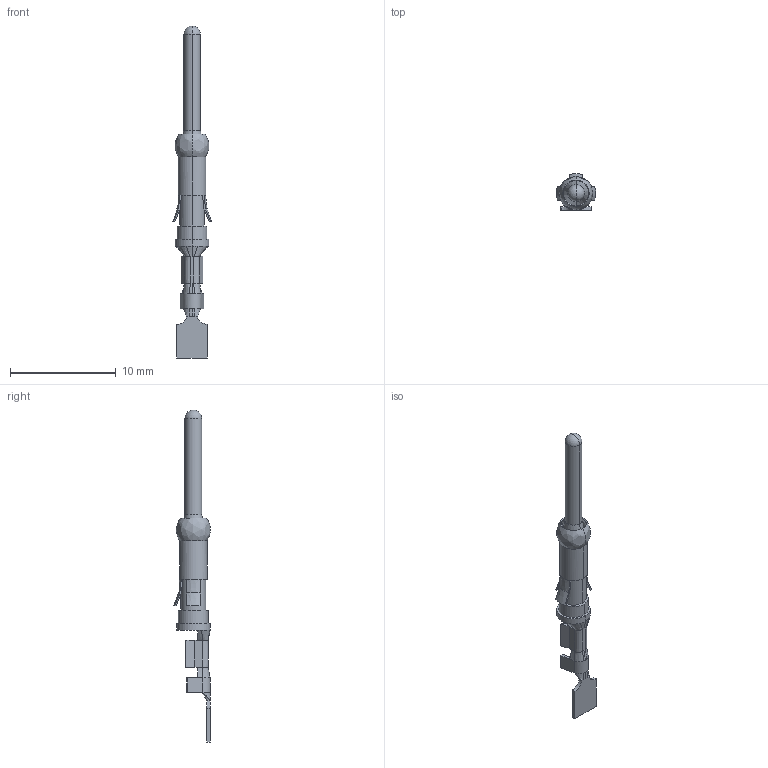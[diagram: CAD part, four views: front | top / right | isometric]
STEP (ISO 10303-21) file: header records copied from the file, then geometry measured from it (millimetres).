
FILE_DESCRIPTION((''),'2;1');
FILE_NAME('C-66425-7','2012-09-25T',('workeradm'),('Tyco Electronics Ltd.'),'PRO/ENGINEER BY PARAMETRIC TECHNOLOGY CORPORATION, 2010430','PRO/ENGINEER BY PARAMETRIC TECHNOLOGY CORPORATION, 2010430','');
FILE_SCHEMA(('AUTOMOTIVE_DESIGN { 1 0 10303 214 1 1 1 1 }'));
Length unit declared in the file: millimetre
Products named in the file (1): C-66425-7
Bounding box: 3.74 x 3.48 x 31.37 mm (x, y, z)
Volume: 87.2 mm3; surface area: 292.3 mm2
Topology: 1 solids, 1 shells, 139 faces, 342 edges, 205 vertices
Faces by surface type: plane 53, bspline 38, cylinder 27, cone 16, extrusion 3, sphere 2
Entity records: 5620 total; most frequent: CARTESIAN_POINT 2285, ORIENTED_EDGE 680, DIRECTION 536, EDGE_CURVE 340, VERTEX_POINT 205, VECTOR 188, LINE 185, AXIS2_PLACEMENT_3D 174
